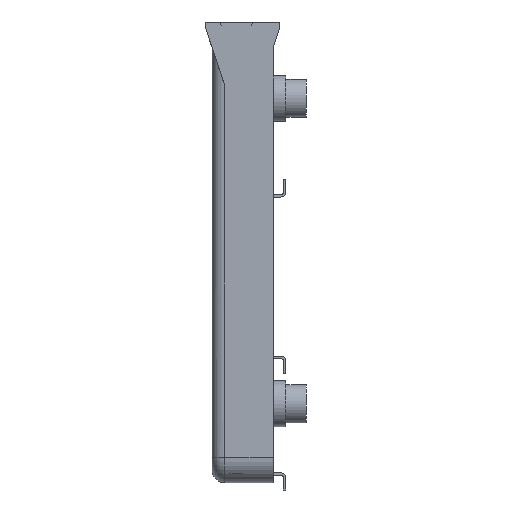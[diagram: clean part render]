
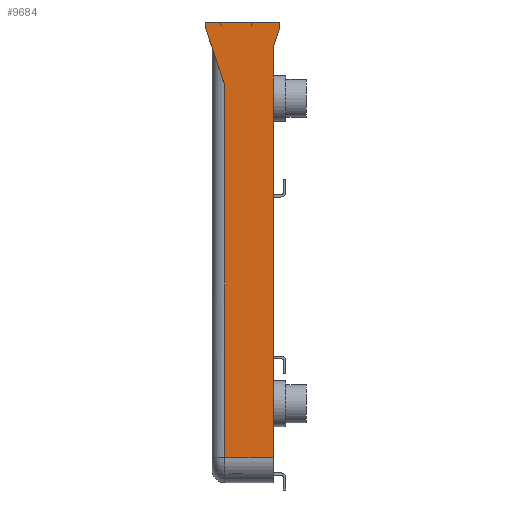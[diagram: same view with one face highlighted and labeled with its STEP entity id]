
A CAD part, left-side view. The second image highlights one B-rep face of the part: STEP entity #9684.
In plain terms, the highlighted planar face has unit normal (-1, 0, 0).
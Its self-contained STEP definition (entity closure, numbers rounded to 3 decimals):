
#6096 = EDGE_CURVE ( 'NONE', #6252, #7385, #13935, .T. ) ;
#6252 = VERTEX_POINT ( 'NONE', #13931 ) ;
#7385 = VERTEX_POINT ( 'NONE', #13920 ) ;
#7393 = VERTEX_POINT ( 'NONE', #13919 ) ;
#7418 = EDGE_CURVE ( 'NONE', #7385, #7393, #13918, .T. ) ;
#9437 = VERTEX_POINT ( 'NONE', #14532 ) ;
#9445 = EDGE_CURVE ( 'NONE', #9437, #6252, #14521, .T. ) ;
#9559 = VERTEX_POINT ( 'NONE', #14718 ) ;
#9561 = EDGE_CURVE ( 'NONE', #9559, #9570, #14717, .T. ) ;
#9570 = VERTEX_POINT ( 'NONE', #14758 ) ;
#9666 = ORIENTED_EDGE ( 'NONE', *, *, #9667, .T. ) ;
#9667 = EDGE_CURVE ( 'NONE', #9692, #9437, #14921, .T. ) ;
#9668 = ORIENTED_EDGE ( 'NONE', *, *, #9445, .T. ) ;
#9669 = ORIENTED_EDGE ( 'NONE', *, *, #6096, .T. ) ;
#9670 = ORIENTED_EDGE ( 'NONE', *, *, #7418, .T. ) ;
#9671 = ORIENTED_EDGE ( 'NONE', *, *, #9672, .T. ) ;
#9672 = EDGE_CURVE ( 'NONE', #7393, #9673, #14917, .T. ) ;
#9673 = VERTEX_POINT ( 'NONE', #14913 ) ;
#9674 = ORIENTED_EDGE ( 'NONE', *, *, #9675, .T. ) ;
#9675 = EDGE_CURVE ( 'NONE', #9673, #9570, #14912, .T. ) ;
#9676 = ORIENTED_EDGE ( 'NONE', *, *, #9561, .F. ) ;
#9684 = ADVANCED_FACE ( 'NONE', ( #14899 ), #14959, .F. ) ;
#9685 = EDGE_LOOP ( 'NONE', ( #9686, #9690, #9666, #9668, #9669, #9670, #9671, #9674, #9676, #9739 ) ) ;
#9686 = ORIENTED_EDGE ( 'NONE', *, *, #9687, .T. ) ;
#9687 = EDGE_CURVE ( 'NONE', #9688, #9689, #14954, .T. ) ;
#9688 = VERTEX_POINT ( 'NONE', #14950 ) ;
#9689 = VERTEX_POINT ( 'NONE', #14949 ) ;
#9690 = ORIENTED_EDGE ( 'NONE', *, *, #9691, .T. ) ;
#9691 = EDGE_CURVE ( 'NONE', #9689, #9692, #14948, .T. ) ;
#9692 = VERTEX_POINT ( 'NONE', #14944 ) ;
#9739 = ORIENTED_EDGE ( 'NONE', *, *, #9740, .F. ) ;
#9740 = EDGE_CURVE ( 'NONE', #9688, #9559, #15051, .T. ) ;
#13915 = DIRECTION ( 'NONE',  ( 0., 0., 1. ) ) ;
#13916 = VECTOR ( 'NONE', #13915, 1000. ) ;
#13917 = CARTESIAN_POINT ( 'NONE',  ( -1.8, 1., 4. ) ) ;
#13918 = LINE ( 'NONE', #13917, #13916 ) ;
#13919 = CARTESIAN_POINT ( 'NONE',  ( -1.8, 1., 4. ) ) ;
#13920 = CARTESIAN_POINT ( 'NONE',  ( -1.8, 1., 0. ) ) ;
#13931 = CARTESIAN_POINT ( 'NONE',  ( -1.8, 1., -24. ) ) ;
#13932 = DIRECTION ( 'NONE',  ( 0., 0., 1. ) ) ;
#13933 = VECTOR ( 'NONE', #13932, 1000. ) ;
#13934 = CARTESIAN_POINT ( 'NONE',  ( -1.8, 1., 4. ) ) ;
#13935 = LINE ( 'NONE', #13934, #13933 ) ;
#14518 = DIRECTION ( 'NONE',  ( 0., 0., 1. ) ) ;
#14519 = VECTOR ( 'NONE', #14518, 1000. ) ;
#14520 = CARTESIAN_POINT ( 'NONE',  ( -1.8, 1., 4. ) ) ;
#14521 = LINE ( 'NONE', #14520, #14519 ) ;
#14532 = CARTESIAN_POINT ( 'NONE',  ( -1.8, 1., -28.2 ) ) ;
#14714 = DIRECTION ( 'NONE',  ( 0., -1., 0. ) ) ;
#14715 = VECTOR ( 'NONE', #14714, 1000. ) ;
#14716 = CARTESIAN_POINT ( 'NONE',  ( -1.8, 6.3, 6. ) ) ;
#14717 = LINE ( 'NONE', #14716, #14715 ) ;
#14718 = CARTESIAN_POINT ( 'NONE',  ( -1.8, 6.3, 6. ) ) ;
#14758 = CARTESIAN_POINT ( 'NONE',  ( -1.8, 0.5, 6. ) ) ;
#14899 = FACE_OUTER_BOUND ( 'NONE', #9685, .T. ) ;
#14909 = DIRECTION ( 'NONE',  ( 0., 0., 1. ) ) ;
#14910 = VECTOR ( 'NONE', #14909, 1000. ) ;
#14911 = CARTESIAN_POINT ( 'NONE',  ( -1.8, 0.5, 5.5 ) ) ;
#14912 = LINE ( 'NONE', #14911, #14910 ) ;
#14913 = CARTESIAN_POINT ( 'NONE',  ( -1.8, 0.5, 5.5 ) ) ;
#14914 = DIRECTION ( 'NONE',  ( 0., -0.316, 0.949 ) ) ;
#14915 = VECTOR ( 'NONE', #14914, 1000. ) ;
#14916 = CARTESIAN_POINT ( 'NONE',  ( -1.8, 0.5, 5.5 ) ) ;
#14917 = LINE ( 'NONE', #14916, #14915 ) ;
#14918 = DIRECTION ( 'NONE',  ( 0., -1., 0. ) ) ;
#14919 = VECTOR ( 'NONE', #14918, 1000. ) ;
#14920 = CARTESIAN_POINT ( 'NONE',  ( -1.8, 6.3, -28.2 ) ) ;
#14921 = LINE ( 'NONE', #14920, #14919 ) ;
#14944 = CARTESIAN_POINT ( 'NONE',  ( -1.8, 4.8, -28.2 ) ) ;
#14945 = DIRECTION ( 'NONE',  ( 0., 0., -1. ) ) ;
#14946 = VECTOR ( 'NONE', #14945, 1000. ) ;
#14947 = CARTESIAN_POINT ( 'NONE',  ( -1.8, 4.8, 6. ) ) ;
#14948 = LINE ( 'NONE', #14947, #14946 ) ;
#14949 = CARTESIAN_POINT ( 'NONE',  ( -1.8, 4.8, 1. ) ) ;
#14950 = CARTESIAN_POINT ( 'NONE',  ( -1.8, 6.3, 5.5 ) ) ;
#14951 = DIRECTION ( 'NONE',  ( 0., -0.316, -0.949 ) ) ;
#14952 = VECTOR ( 'NONE', #14951, 1000. ) ;
#14953 = CARTESIAN_POINT ( 'NONE',  ( -1.8, 6.3, 5.5 ) ) ;
#14954 = LINE ( 'NONE', #14953, #14952 ) ;
#14955 = DIRECTION ( 'NONE',  ( 0., 0., -1. ) ) ;
#14956 = DIRECTION ( 'NONE',  ( 1., 0., 0. ) ) ;
#14957 = CARTESIAN_POINT ( 'NONE',  ( -1.8, 6.3, 6. ) ) ;
#14958 = AXIS2_PLACEMENT_3D ( 'NONE', #14957, #14956, #14955 ) ;
#14959 = PLANE ( 'NONE',  #14958 ) ;
#15048 = DIRECTION ( 'NONE',  ( 0., 0., 1. ) ) ;
#15049 = VECTOR ( 'NONE', #15048, 1000. ) ;
#15050 = CARTESIAN_POINT ( 'NONE',  ( -1.8, 6.3, 6. ) ) ;
#15051 = LINE ( 'NONE', #15050, #15049 ) ;
